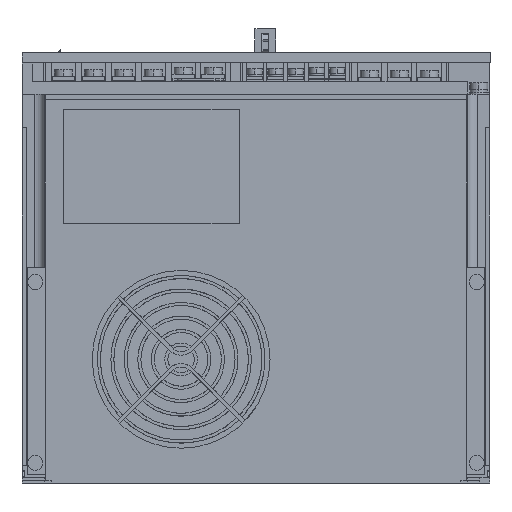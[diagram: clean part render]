
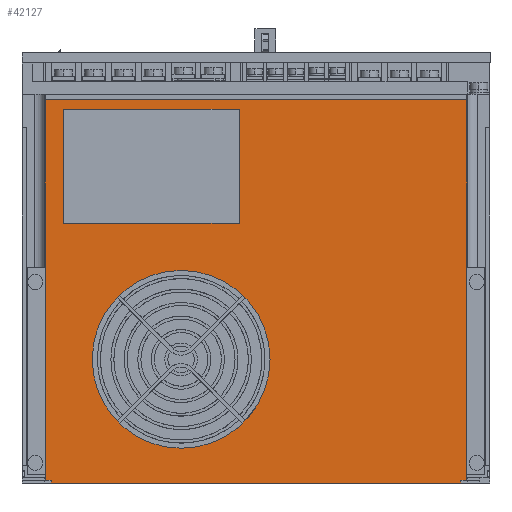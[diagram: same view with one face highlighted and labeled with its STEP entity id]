
A CAD part, left-side view. The second image highlights one B-rep face of the part: STEP entity #42127.
In plain terms, the highlighted planar face has unit normal (-1, 0, 0).
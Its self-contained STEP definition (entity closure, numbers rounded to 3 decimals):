
#7905 = CARTESIAN_POINT ( 'NONE',  ( -5., -228.4, 1.6 ) ) ;
#7906 = DIRECTION ( 'NONE',  ( 0., 0., 1. ) ) ;
#7907 = VECTOR ( 'NONE', #7906, 1000. ) ;
#7908 = CARTESIAN_POINT ( 'NONE',  ( -5., -228.4, -284.121 ) ) ;
#7909 = LINE ( 'NONE', #7908, #7907 ) ;
#7910 = CARTESIAN_POINT ( 'NONE',  ( -5., -228.4, 0. ) ) ;
#7911 = DIRECTION ( 'NONE',  ( 0., -1., 0. ) ) ;
#7912 = VECTOR ( 'NONE', #7911, 1000. ) ;
#7913 = CARTESIAN_POINT ( 'NONE',  ( -5., -228.4, 0. ) ) ;
#7914 = LINE ( 'NONE', #7913, #7912 ) ;
#7915 = CARTESIAN_POINT ( 'NONE',  ( -5., -9.6, 0. ) ) ;
#7916 = DIRECTION ( 'NONE',  ( 0., 0., 1. ) ) ;
#7917 = VECTOR ( 'NONE', #7916, 1000. ) ;
#7918 = CARTESIAN_POINT ( 'NONE',  ( -5., -9.6, -284.121 ) ) ;
#7919 = LINE ( 'NONE', #7918, #7917 ) ;
#7948 = CARTESIAN_POINT ( 'NONE',  ( -5., -6.5, 204.9 ) ) ;
#7949 = CARTESIAN_POINT ( 'NONE',  ( -5., -231.5, 204.9 ) ) ;
#7950 = DIRECTION ( 'NONE',  ( 0., 1., 0. ) ) ;
#7951 = VECTOR ( 'NONE', #7950, 1000. ) ;
#7952 = CARTESIAN_POINT ( 'NONE',  ( -5., 6., 204.9 ) ) ;
#7953 = LINE ( 'NONE', #7952, #7951 ) ;
#7954 = DIRECTION ( 'NONE',  ( 0., 1., 0. ) ) ;
#7955 = DIRECTION ( 'NONE',  ( 1., 0., 0. ) ) ;
#7956 = CARTESIAN_POINT ( 'NONE',  ( -5., 6., 465.767 ) ) ;
#7957 = AXIS2_PLACEMENT_3D ( 'NONE', #7956, #7955, #7954 ) ;
#7958 = PLANE ( 'NONE',  #7957 ) ;
#7959 = FACE_BOUND ( 'NONE', #42187, .T. ) ;
#7960 = FACE_BOUND ( 'NONE', #42183, .T. ) ;
#7961 = FACE_OUTER_BOUND ( 'NONE', #42128, .T. ) ;
#8017 = DIRECTION ( 'NONE',  ( 0., 0., 1. ) ) ;
#8018 = VECTOR ( 'NONE', #8017, 1000. ) ;
#8019 = CARTESIAN_POINT ( 'NONE',  ( -5., -110., 138.9 ) ) ;
#8020 = LINE ( 'NONE', #8019, #8018 ) ;
#8021 = CARTESIAN_POINT ( 'NONE',  ( -5., -110., 199.9 ) ) ;
#8022 = DIRECTION ( 'NONE',  ( 0., 1., 0. ) ) ;
#8023 = VECTOR ( 'NONE', #8022, 1000. ) ;
#8024 = CARTESIAN_POINT ( 'NONE',  ( -5., -16., 199.9 ) ) ;
#8025 = LINE ( 'NONE', #8024, #8023 ) ;
#8026 = CARTESIAN_POINT ( 'NONE',  ( -5., -16., 199.9 ) ) ;
#8027 = DIRECTION ( 'NONE',  ( 0., 0., -1. ) ) ;
#8028 = VECTOR ( 'NONE', #8027, 1000. ) ;
#8029 = CARTESIAN_POINT ( 'NONE',  ( -5., -16., 138.9 ) ) ;
#8030 = LINE ( 'NONE', #8029, #8028 ) ;
#8036 = LINE ( 'NONE', #8097, #8096 ) ;
#8037 = CARTESIAN_POINT ( 'NONE',  ( -5., -6.5, 1.6 ) ) ;
#8038 = DIRECTION ( 'NONE',  ( 0., 0., 1. ) ) ;
#8039 = VECTOR ( 'NONE', #8038, 1000. ) ;
#8040 = CARTESIAN_POINT ( 'NONE',  ( -5., -6.5, -15.051 ) ) ;
#8041 = LINE ( 'NONE', #8040, #8039 ) ;
#8042 = CARTESIAN_POINT ( 'NONE',  ( -5., -110., 138.9 ) ) ;
#8043 = CARTESIAN_POINT ( 'NONE',  ( -5., -16., 138.9 ) ) ;
#8044 = DIRECTION ( 'NONE',  ( 0., -1., 0. ) ) ;
#8045 = VECTOR ( 'NONE', #8044, 1000. ) ;
#8046 = CARTESIAN_POINT ( 'NONE',  ( -5., -16., 138.9 ) ) ;
#8047 = LINE ( 'NONE', #8046, #8045 ) ;
#8048 = DIRECTION ( 'NONE',  ( 0., -1., 0. ) ) ;
#8049 = DIRECTION ( 'NONE',  ( -1., 0., 0. ) ) ;
#8050 = CARTESIAN_POINT ( 'NONE',  ( -5., -79., 66.3 ) ) ;
#8051 = AXIS2_PLACEMENT_3D ( 'NONE', #8050, #8049, #8048 ) ;
#8052 = CIRCLE ( 'NONE', #8051, 47.5 ) ;
#8053 = DIRECTION ( 'NONE',  ( 0., 0., 1. ) ) ;
#8054 = VECTOR ( 'NONE', #8053, 1000. ) ;
#8055 = CARTESIAN_POINT ( 'NONE',  ( -5., -231.5, -15.051 ) ) ;
#8056 = LINE ( 'NONE', #8055, #8054 ) ;
#8057 = CARTESIAN_POINT ( 'NONE',  ( -5., -231.5, 1.6 ) ) ;
#8058 = DIRECTION ( 'NONE',  ( 0., -1., 0. ) ) ;
#8059 = VECTOR ( 'NONE', #8058, 1000. ) ;
#8060 = CARTESIAN_POINT ( 'NONE',  ( -5., 6., 1.6 ) ) ;
#8061 = LINE ( 'NONE', #8060, #8059 ) ;
#8094 = CARTESIAN_POINT ( 'NONE',  ( -5., -9.6, 1.6 ) ) ;
#8095 = DIRECTION ( 'NONE',  ( 0., -1., 0. ) ) ;
#8096 = VECTOR ( 'NONE', #8095, 1000. ) ;
#8097 = CARTESIAN_POINT ( 'NONE',  ( -5., 6., 1.6 ) ) ;
#11488 = CARTESIAN_POINT ( 'NONE',  ( -5., -126.5, 66.3 ) ) ;
#11489 = DIRECTION ( 'NONE',  ( 0., -1., 0. ) ) ;
#11490 = DIRECTION ( 'NONE',  ( -1., 0., 0. ) ) ;
#11491 = CARTESIAN_POINT ( 'NONE',  ( -5., -79., 66.3 ) ) ;
#11492 = AXIS2_PLACEMENT_3D ( 'NONE', #11491, #11490, #11489 ) ;
#11493 = CIRCLE ( 'NONE', #11492, 47.5 ) ;
#11494 = CARTESIAN_POINT ( 'NONE',  ( -5., -31.5, 66.3 ) ) ;
#34426 = VERTEX_POINT ( 'NONE', #11494 ) ;
#34428 = EDGE_CURVE ( 'NONE', #34426, #34429, #11493, .T. ) ;
#34429 = VERTEX_POINT ( 'NONE', #11488 ) ;
#42112 = EDGE_CURVE ( 'NONE', #42113, #42197, #7919, .T. ) ;
#42113 = VERTEX_POINT ( 'NONE', #7915 ) ;
#42114 = ORIENTED_EDGE ( 'NONE', *, *, #42115, .T. ) ;
#42115 = EDGE_CURVE ( 'NONE', #42113, #42116, #7914, .T. ) ;
#42116 = VERTEX_POINT ( 'NONE', #7910 ) ;
#42117 = ORIENTED_EDGE ( 'NONE', *, *, #42118, .T. ) ;
#42118 = EDGE_CURVE ( 'NONE', #42116, #42119, #7909, .T. ) ;
#42119 = VERTEX_POINT ( 'NONE', #7905 ) ;
#42127 = ADVANCED_FACE ( 'NONE', ( #7961, #7960, #7959 ), #7958, .F. ) ;
#42128 = EDGE_LOOP ( 'NONE', ( #42129, #42192, #42195, #42198, #42114, #42117, #42178, #42181 ) ) ;
#42129 = ORIENTED_EDGE ( 'NONE', *, *, #42130, .T. ) ;
#42130 = EDGE_CURVE ( 'NONE', #42131, #42132, #7953, .T. ) ;
#42131 = VERTEX_POINT ( 'NONE', #7949 ) ;
#42132 = VERTEX_POINT ( 'NONE', #7948 ) ;
#42162 = ORIENTED_EDGE ( 'NONE', *, *, #42163, .F. ) ;
#42163 = EDGE_CURVE ( 'NONE', #42164, #42190, #8030, .T. ) ;
#42164 = VERTEX_POINT ( 'NONE', #8026 ) ;
#42165 = ORIENTED_EDGE ( 'NONE', *, *, #42166, .F. ) ;
#42166 = EDGE_CURVE ( 'NONE', #42167, #42164, #8025, .T. ) ;
#42167 = VERTEX_POINT ( 'NONE', #8021 ) ;
#42168 = ORIENTED_EDGE ( 'NONE', *, *, #42169, .F. ) ;
#42169 = EDGE_CURVE ( 'NONE', #42191, #42167, #8020, .T. ) ;
#42178 = ORIENTED_EDGE ( 'NONE', *, *, #42179, .T. ) ;
#42179 = EDGE_CURVE ( 'NONE', #42119, #42180, #8061, .T. ) ;
#42180 = VERTEX_POINT ( 'NONE', #8057 ) ;
#42181 = ORIENTED_EDGE ( 'NONE', *, *, #42182, .T. ) ;
#42182 = EDGE_CURVE ( 'NONE', #42180, #42131, #8056, .T. ) ;
#42183 = EDGE_LOOP ( 'NONE', ( #42184, #42186 ) ) ;
#42184 = ORIENTED_EDGE ( 'NONE', *, *, #42185, .F. ) ;
#42185 = EDGE_CURVE ( 'NONE', #34429, #34426, #8052, .T. ) ;
#42186 = ORIENTED_EDGE ( 'NONE', *, *, #34428, .F. ) ;
#42187 = EDGE_LOOP ( 'NONE', ( #42188, #42162, #42165, #42168 ) ) ;
#42188 = ORIENTED_EDGE ( 'NONE', *, *, #42189, .F. ) ;
#42189 = EDGE_CURVE ( 'NONE', #42190, #42191, #8047, .T. ) ;
#42190 = VERTEX_POINT ( 'NONE', #8043 ) ;
#42191 = VERTEX_POINT ( 'NONE', #8042 ) ;
#42192 = ORIENTED_EDGE ( 'NONE', *, *, #42193, .F. ) ;
#42193 = EDGE_CURVE ( 'NONE', #42194, #42132, #8041, .T. ) ;
#42194 = VERTEX_POINT ( 'NONE', #8037 ) ;
#42195 = ORIENTED_EDGE ( 'NONE', *, *, #42196, .T. ) ;
#42196 = EDGE_CURVE ( 'NONE', #42194, #42197, #8036, .T. ) ;
#42197 = VERTEX_POINT ( 'NONE', #8094 ) ;
#42198 = ORIENTED_EDGE ( 'NONE', *, *, #42112, .F. ) ;
